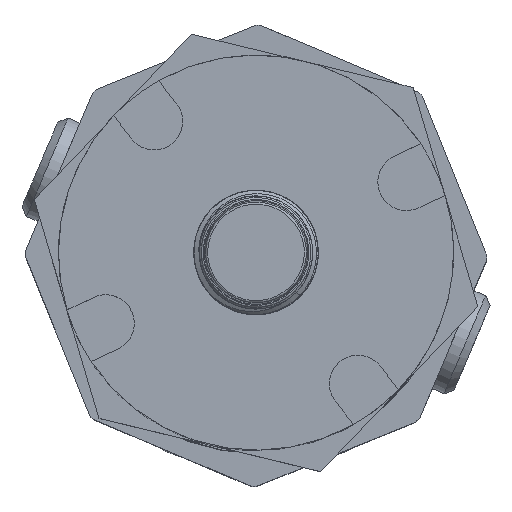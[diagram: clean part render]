
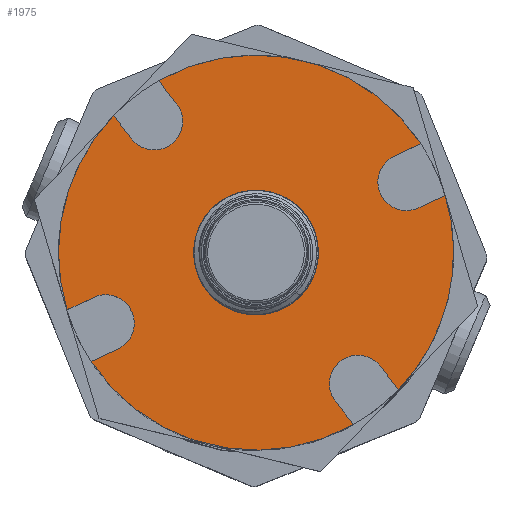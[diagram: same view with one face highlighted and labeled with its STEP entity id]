
A CAD part, top view. The second image highlights one B-rep face of the part: STEP entity #1975.
In plain terms, the highlighted planar face has unit normal (0, 0, 1).
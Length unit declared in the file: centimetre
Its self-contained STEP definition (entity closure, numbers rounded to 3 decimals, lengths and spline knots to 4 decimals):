
#50=FACE_BOUND('',#337,.T.);
#100=PLANE('',#2199);
#209=FACE_OUTER_BOUND('',#336,.T.);
#336=EDGE_LOOP('',(#1675,#1676,#1677,#1678,#1679,#1680,#1681,#1682,#1683,
#1684,#1685,#1686,#1687,#1688,#1689,#1690,#1691));
#337=EDGE_LOOP('',(#1692));
#426=CIRCLE('',#2176,0.53);
#439=CIRCLE('',#2200,0.275);
#440=CIRCLE('',#2201,1.905);
#441=CIRCLE('',#2202,0.275);
#442=CIRCLE('',#2203,1.905);
#443=CIRCLE('',#2204,1.905);
#444=CIRCLE('',#2205,0.275);
#445=CIRCLE('',#2206,1.905);
#446=CIRCLE('',#2207,0.275);
#447=CIRCLE('',#2208,1.905);
#599=LINE('',#8832,#747);
#600=LINE('',#8836,#748);
#601=LINE('',#8840,#749);
#602=LINE('',#8844,#750);
#603=LINE('',#8850,#751);
#604=LINE('',#8854,#752);
#605=LINE('',#8858,#753);
#606=LINE('',#8862,#754);
#747=VECTOR('',#2663,1.);
#748=VECTOR('',#2666,1.);
#749=VECTOR('',#2669,1.);
#750=VECTOR('',#2672,1.);
#751=VECTOR('',#2677,1.);
#752=VECTOR('',#2680,1.);
#753=VECTOR('',#2683,1.);
#754=VECTOR('',#2686,1.);
#909=VERTEX_POINT('',#3964);
#935=VERTEX_POINT('',#8830);
#936=VERTEX_POINT('',#8831);
#937=VERTEX_POINT('',#8833);
#938=VERTEX_POINT('',#8835);
#939=VERTEX_POINT('',#8837);
#940=VERTEX_POINT('',#8839);
#941=VERTEX_POINT('',#8841);
#942=VERTEX_POINT('',#8843);
#943=VERTEX_POINT('',#8845);
#944=VERTEX_POINT('',#8847);
#945=VERTEX_POINT('',#8849);
#946=VERTEX_POINT('',#8851);
#947=VERTEX_POINT('',#8853);
#948=VERTEX_POINT('',#8855);
#949=VERTEX_POINT('',#8857);
#950=VERTEX_POINT('',#8859);
#951=VERTEX_POINT('',#8861);
#1148=EDGE_CURVE('',#909,#909,#426,.T.);
#1193=EDGE_CURVE('',#935,#936,#599,.T.);
#1194=EDGE_CURVE('',#936,#937,#439,.T.);
#1195=EDGE_CURVE('',#937,#938,#600,.T.);
#1196=EDGE_CURVE('',#938,#939,#440,.T.);
#1197=EDGE_CURVE('',#939,#940,#601,.T.);
#1198=EDGE_CURVE('',#940,#941,#441,.T.);
#1199=EDGE_CURVE('',#941,#942,#602,.T.);
#1200=EDGE_CURVE('',#942,#943,#442,.T.);
#1201=EDGE_CURVE('',#943,#944,#443,.T.);
#1202=EDGE_CURVE('',#944,#945,#603,.T.);
#1203=EDGE_CURVE('',#945,#946,#444,.T.);
#1204=EDGE_CURVE('',#946,#947,#604,.T.);
#1205=EDGE_CURVE('',#947,#948,#445,.T.);
#1206=EDGE_CURVE('',#948,#949,#605,.T.);
#1207=EDGE_CURVE('',#949,#950,#446,.T.);
#1208=EDGE_CURVE('',#950,#951,#606,.T.);
#1209=EDGE_CURVE('',#951,#935,#447,.T.);
#1675=ORIENTED_EDGE('',*,*,#1193,.T.);
#1676=ORIENTED_EDGE('',*,*,#1194,.T.);
#1677=ORIENTED_EDGE('',*,*,#1195,.T.);
#1678=ORIENTED_EDGE('',*,*,#1196,.T.);
#1679=ORIENTED_EDGE('',*,*,#1197,.T.);
#1680=ORIENTED_EDGE('',*,*,#1198,.T.);
#1681=ORIENTED_EDGE('',*,*,#1199,.T.);
#1682=ORIENTED_EDGE('',*,*,#1200,.T.);
#1683=ORIENTED_EDGE('',*,*,#1201,.T.);
#1684=ORIENTED_EDGE('',*,*,#1202,.T.);
#1685=ORIENTED_EDGE('',*,*,#1203,.T.);
#1686=ORIENTED_EDGE('',*,*,#1204,.T.);
#1687=ORIENTED_EDGE('',*,*,#1205,.T.);
#1688=ORIENTED_EDGE('',*,*,#1206,.T.);
#1689=ORIENTED_EDGE('',*,*,#1207,.T.);
#1690=ORIENTED_EDGE('',*,*,#1208,.T.);
#1691=ORIENTED_EDGE('',*,*,#1209,.T.);
#1692=ORIENTED_EDGE('',*,*,#1148,.T.);
#1975=ADVANCED_FACE('',(#209,#50),#100,.F.);
#2176=AXIS2_PLACEMENT_3D('',#3965,#2603,#2604);
#2199=AXIS2_PLACEMENT_3D('',#8829,#2661,#2662);
#2200=AXIS2_PLACEMENT_3D('',#8834,#2664,#2665);
#2201=AXIS2_PLACEMENT_3D('',#8838,#2667,#2668);
#2202=AXIS2_PLACEMENT_3D('',#8842,#2670,#2671);
#2203=AXIS2_PLACEMENT_3D('',#8846,#2673,#2674);
#2204=AXIS2_PLACEMENT_3D('',#8848,#2675,#2676);
#2205=AXIS2_PLACEMENT_3D('',#8852,#2678,#2679);
#2206=AXIS2_PLACEMENT_3D('',#8856,#2681,#2682);
#2207=AXIS2_PLACEMENT_3D('',#8860,#2684,#2685);
#2208=AXIS2_PLACEMENT_3D('',#8863,#2687,#2688);
#2603=DIRECTION('center_axis',(0.,0.,
-1.));
#2604=DIRECTION('ref_axis',(0.713,-0.702,0.));
#2661=DIRECTION('center_axis',(0.,0.,
-1.));
#2662=DIRECTION('ref_axis',(-0.234,-0.972,0.));
#2663=DIRECTION('',(0.905,0.425,0.));
#2664=DIRECTION('center_axis',(0.,0.,
-1.));
#2665=DIRECTION('ref_axis',(-0.972,0.234,0.));
#2666=DIRECTION('',(-0.905,-0.425,0.));
#2667=DIRECTION('center_axis',(0.,0.,
1.));
#2668=DIRECTION('ref_axis',(-0.972,0.234,0.));
#2669=DIRECTION('',(-0.613,0.79,0.));
#2670=DIRECTION('center_axis',(0.,0.,
-1.));
#2671=DIRECTION('ref_axis',(-0.972,0.234,0.));
#2672=DIRECTION('',(0.613,-0.79,0.));
#2673=DIRECTION('center_axis',(0.,0.,
1.));
#2674=DIRECTION('ref_axis',(-0.972,0.234,0.));
#2675=DIRECTION('center_axis',(0.,0.,
1.));
#2676=DIRECTION('ref_axis',(-0.972,0.234,0.));
#2677=DIRECTION('',(-0.905,-0.425,0.));
#2678=DIRECTION('center_axis',(0.,0.,
-1.));
#2679=DIRECTION('ref_axis',(-0.972,0.234,0.));
#2680=DIRECTION('',(0.905,0.425,0.));
#2681=DIRECTION('center_axis',(0.,0.,
1.));
#2682=DIRECTION('ref_axis',(-0.972,0.234,0.));
#2683=DIRECTION('',(0.613,-0.79,0.));
#2684=DIRECTION('center_axis',(0.,0.,
-1.));
#2685=DIRECTION('ref_axis',(-0.972,0.234,0.));
#2686=DIRECTION('',(-0.613,0.79,0.));
#2687=DIRECTION('center_axis',(0.,0.,
1.));
#2688=DIRECTION('ref_axis',(-0.972,0.234,0.));
#3964=CARTESIAN_POINT('',(-0.3777,0.3718,5.1308));
#3965=CARTESIAN_POINT('Origin',(0.,0.,
5.1308));
#8829=CARTESIAN_POINT('Origin',(0.,0.,
5.1308));
#8830=CARTESIAN_POINT('',(-1.823,-0.5529,5.1308));
#8831=CARTESIAN_POINT('',(-1.5812,-0.4394,5.1308));
#8832=CARTESIAN_POINT('',(-0.8411,-0.0918,5.1308));
#8833=CARTESIAN_POINT('',(-1.3479,-0.9362,5.1308));
#8834=CARTESIAN_POINT('Origin',(-1.449,-0.6805,5.1308));
#8835=CARTESIAN_POINT('',(-1.5897,-1.0498,5.1308));
#8836=CARTESIAN_POINT('',(-0.7455,-0.6533,5.1308));
#8837=CARTESIAN_POINT('',(0.9396,-1.6572,5.1308));
#8838=CARTESIAN_POINT('Origin',(0.,0.,
5.1308));
#8839=CARTESIAN_POINT('',(0.7758,-1.4462,5.1308));
#8840=CARTESIAN_POINT('',(0.2742,-0.8005,5.1308));
#8841=CARTESIAN_POINT('',(1.2093,-1.1095,5.1308));
#8842=CARTESIAN_POINT('Origin',(0.9819,-1.2642,5.1308));
#8843=CARTESIAN_POINT('',(1.3731,-1.3204,5.1308));
#8844=CARTESIAN_POINT('',(0.801,-0.5839,5.1308));
#8845=CARTESIAN_POINT('',(1.8523,-0.4448,5.1308));
#8846=CARTESIAN_POINT('Origin',(0.,0.,
5.1308));
#8847=CARTESIAN_POINT('',(1.823,0.5529,5.1308));
#8848=CARTESIAN_POINT('Origin',(0.,0.,
5.1308));
#8849=CARTESIAN_POINT('',(1.5812,0.4394,5.1308));
#8850=CARTESIAN_POINT('',(0.9788,0.1565,5.1308));
#8851=CARTESIAN_POINT('',(1.3479,0.9362,5.1308));
#8852=CARTESIAN_POINT('Origin',(1.449,0.6805,5.1308));
#8853=CARTESIAN_POINT('',(1.5897,1.0498,5.1308));
#8854=CARTESIAN_POINT('',(0.6078,0.5887,5.1308));
#8855=CARTESIAN_POINT('',(-0.9396,1.6572,5.1308));
#8856=CARTESIAN_POINT('Origin',(0.,0.,
5.1308));
#8857=CARTESIAN_POINT('',(-0.7758,1.4462,5.1308));
#8858=CARTESIAN_POINT('',(-0.3675,0.9206,5.1308));
#8859=CARTESIAN_POINT('',(-1.2093,1.1095,5.1308));
#8860=CARTESIAN_POINT('Origin',(-0.9819,1.2642,5.1308));
#8861=CARTESIAN_POINT('',(-1.3731,1.3204,5.1308));
#8862=CARTESIAN_POINT('',(-0.7077,0.4638,5.1308));
#8863=CARTESIAN_POINT('Origin',(0.,0.,
5.1308));
